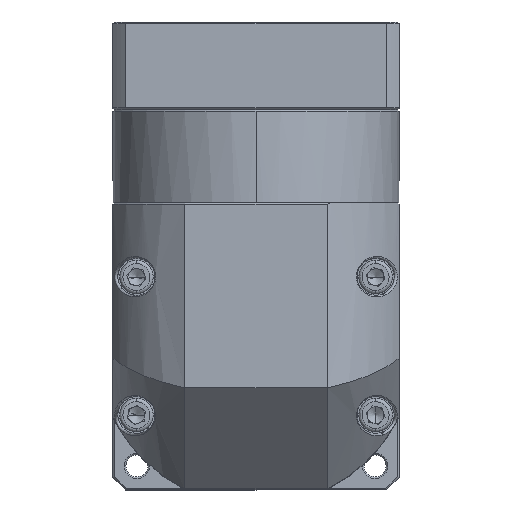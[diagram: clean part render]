
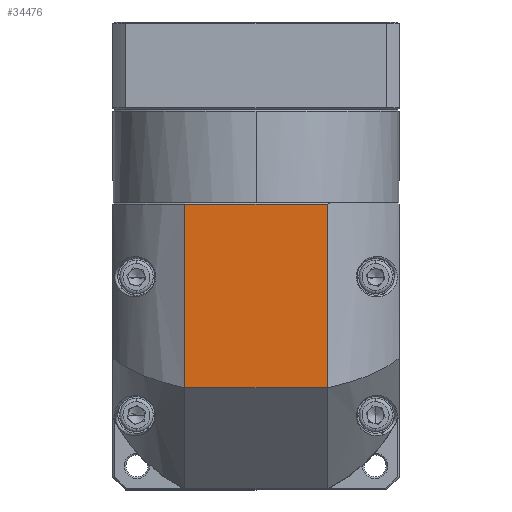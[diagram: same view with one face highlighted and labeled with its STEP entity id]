
A CAD part, top view. The second image highlights one B-rep face of the part: STEP entity #34476.
In plain terms, the highlighted planar face has unit normal (0, 0, 1).
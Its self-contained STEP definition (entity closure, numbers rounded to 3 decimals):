
#4168 = VERTEX_POINT ( 'NONE', #32293 ) ;
#4266 = VECTOR ( 'NONE', #36792, 1000. ) ;
#5496 = CARTESIAN_POINT ( 'NONE',  ( -21.777, 20.278, 54.572 ) ) ;
#5867 = LINE ( 'NONE', #131718, #4266 ) ;
#6240 = VERTEX_POINT ( 'NONE', #25233 ) ;
#12618 = CARTESIAN_POINT ( 'NONE',  ( -21.777, -25.222, 54.572 ) ) ;
#14752 = EDGE_CURVE ( 'NONE', #104481, #4168, #52039, .T. ) ;
#17005 = VECTOR ( 'NONE', #82173, 1000. ) ;
#17695 = CARTESIAN_POINT ( 'NONE',  ( -42.99, 32.778, 54.572 ) ) ;
#19287 = CARTESIAN_POINT ( 'NONE',  ( -64.203, 20.278, 54.572 ) ) ;
#24634 = AXIS2_PLACEMENT_3D ( 'NONE', #17695, #111349, #37755 ) ;
#25233 = CARTESIAN_POINT ( 'NONE',  ( -21.777, 74.778, 54.572 ) ) ;
#26127 = EDGE_CURVE ( 'NONE', #6240, #4168, #82395, .T. ) ;
#32293 = CARTESIAN_POINT ( 'NONE',  ( -64.203, 74.778, 54.572 ) ) ;
#34476 = ADVANCED_FACE ( 'NONE', ( #108455 ), #47336, .T. ) ;
#36792 = DIRECTION ( 'NONE',  ( -1., 0., 0. ) ) ;
#37755 = DIRECTION ( 'NONE',  ( 0., 1., 0. ) ) ;
#47336 = PLANE ( 'NONE',  #24634 ) ;
#48806 = VECTOR ( 'NONE', #122462, 1000. ) ;
#50753 = VECTOR ( 'NONE', #85641, 1000. ) ;
#52039 = LINE ( 'NONE', #112434, #48806 ) ;
#60444 = ORIENTED_EDGE ( 'NONE', *, *, #26127, .T. ) ;
#60762 = ORIENTED_EDGE ( 'NONE', *, *, #14752, .F. ) ;
#69241 = ORIENTED_EDGE ( 'NONE', *, *, #80946, .F. ) ;
#70675 = VERTEX_POINT ( 'NONE', #5496 ) ;
#70801 = CARTESIAN_POINT ( 'NONE',  ( -42.99, 74.778, 54.572 ) ) ;
#74232 = ORIENTED_EDGE ( 'NONE', *, *, #99478, .F. ) ;
#80946 = EDGE_CURVE ( 'NONE', #70675, #104481, #5867, .T. ) ;
#82173 = DIRECTION ( 'NONE',  ( -1., 0., 0. ) ) ;
#82395 = LINE ( 'NONE', #70801, #17005 ) ;
#85641 = DIRECTION ( 'NONE',  ( 0., -1., 0. ) ) ;
#99478 = EDGE_CURVE ( 'NONE', #6240, #70675, #101385, .T. ) ;
#101385 = LINE ( 'NONE', #12618, #50753 ) ;
#104481 = VERTEX_POINT ( 'NONE', #19287 ) ;
#104581 = EDGE_LOOP ( 'NONE', ( #60762, #69241, #74232, #60444 ) ) ;
#108455 = FACE_OUTER_BOUND ( 'NONE', #104581, .T. ) ;
#111349 = DIRECTION ( 'NONE',  ( 0., 0., 1. ) ) ;
#112434 = CARTESIAN_POINT ( 'NONE',  ( -64.203, -25.222, 54.572 ) ) ;
#122462 = DIRECTION ( 'NONE',  ( 0., 1., 0. ) ) ;
#131718 = CARTESIAN_POINT ( 'NONE',  ( -42.99, 20.278, 54.572 ) ) ;
